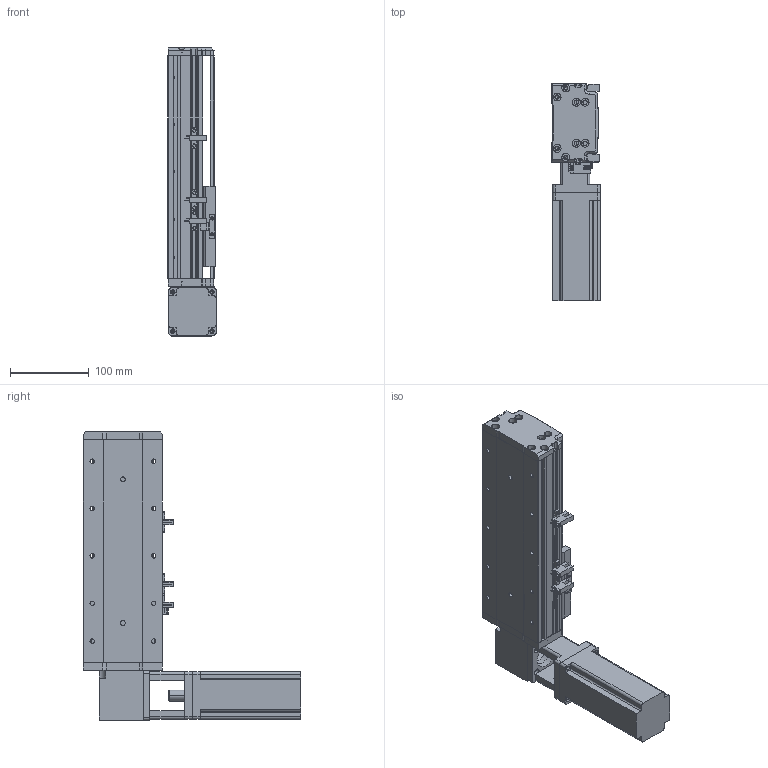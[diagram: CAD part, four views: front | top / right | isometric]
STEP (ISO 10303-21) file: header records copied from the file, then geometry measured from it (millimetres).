
FILE_DESCRIPTION (( 'STEP AP214' ), '1' );
FILE_NAME ('KSD100B-S100-MLT-CM.STEP', '2019-12-07T01:42:42', ( '微软用户' ), ( '微软中国' ), 'SwSTEP 2.0', 'SolidWorks 2014', '' );
FILE_SCHEMA (( 'AUTOMOTIVE_DESIGN' ));
Length unit declared in the file: millimetre
Products named in the file (12): 100宽安装板同步带带电机座400W,86; 100遵鎮湛假蚾啣1 ; 100宽防尘板100行程-同步带; U倰嫖萇EEㄜSX672; 覜茼え100遵圉猾敕; 台达ECMA－C20604AS伺服电机; 100宽马达安装板同步带右; 100宽同步带安装板半封闭; 100宽马达安装板同步带; 100遵傷啣肮祭湍; 100宽底板半封闭同步带100行程; KSD100B-S100-MLT-CM
Assembly tree (13 placements, depth 2):
  KSD100B-S100-MLT-CM
    100宽底板半封闭同步带100行程
    100遵傷啣肮祭湍
    100宽马达安装板同步带
    100宽同步带安装板半封闭
    100宽马达安装板同步带右
    台达ECMA－C20604AS伺服电机
    覜茼え100遵圉猾敕
    U倰嫖萇EEㄜSX672  x3
    100宽防尘板100行程-同步带
    100遵鎮湛假蚾啣1 
    100宽安装板同步带带电机座400W,86
Bounding box: 61 x 275 x 365 mm (x, y, z)
Volume: 1281263.7 mm3; surface area: 356625.2 mm2
Topology: 14 solids, 14 shells, 1246 faces, 3479 edges, 2247 vertices
Faces by surface type: cylinder 612, plane 555, cone 79
Entity records: 42099 total; most frequent: CARTESIAN_POINT 7754, DIRECTION 5979, ORIENTED_EDGE 5706, EDGE_CURVE 2853, AXIS2_PLACEMENT_3D 2178, VERTEX_POINT 1871, VECTOR 1623, LINE 1623
